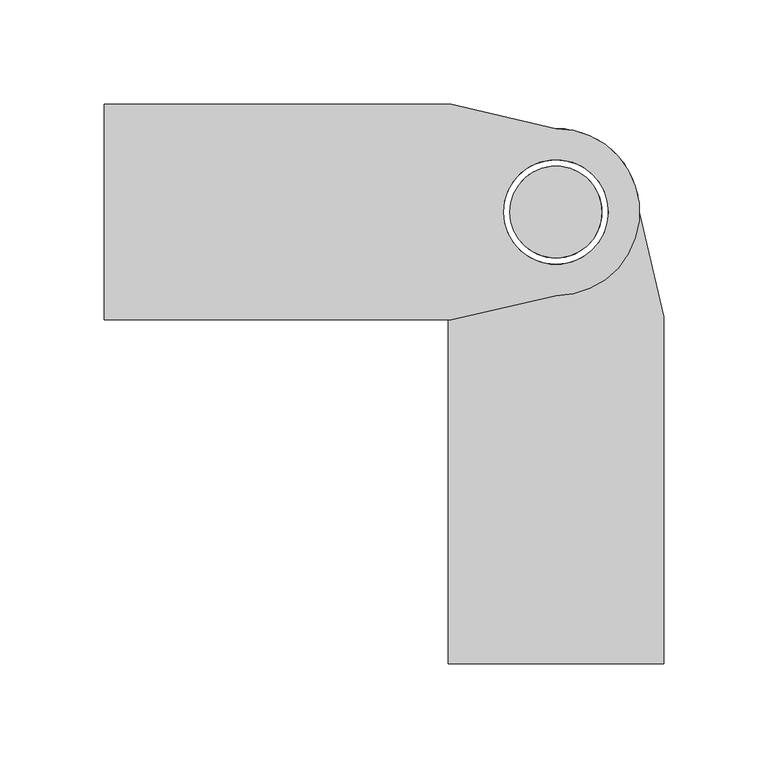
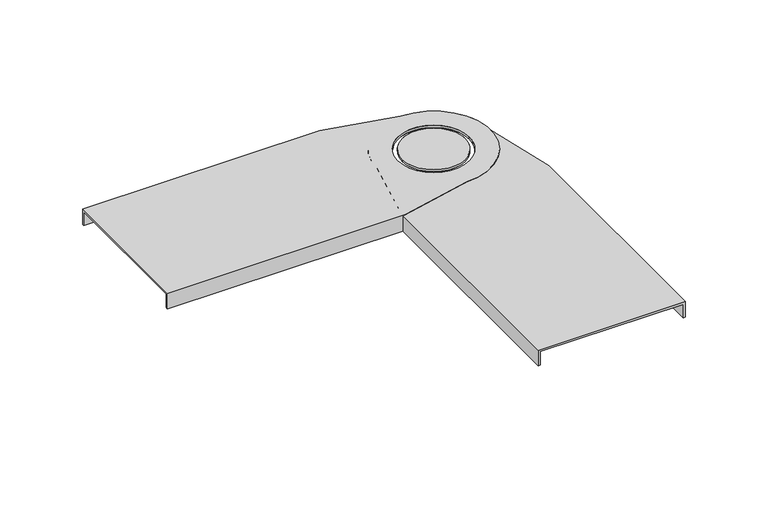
"""IFC4 building model written with IfcOpenShell, lengths in millimetres: cable carrier fitting geometry, BAKS_LDLS_BEND_Articulated connector_LGSU : LGSUP_H100."""

from ifc_helpers import new_model, si_unit, frame, origin, place, context, project, spatial, polyline, circle_curve, source, transform, mapped, element, save
from ifc_brep_helpers import plane_surface, cylinder_surface, revolved_surface, advanced_brep


def cable_carrier_fitting_ac158406(model_context):
    return source(origin(), model_context, "Body", "AdvancedBrep", [
        advanced_brep(
        [(-216.0, -51.5, 1.5), (-50.0, -51.5, 1.5), (0.0, -40.0, 1.5), (0.0, 40.0, 1.5), (-50.0, 51.5, 1.5), (-216.0, 51.5, 1.5), (25.0, 0.0, 1.5), (-25.0, 0.0, 1.5), (-50.0, 51.5, 0.0), (0.0, 40.0, 0.0), (0.0, -40.0, 0.0), (-50.0, -51.5, 0.0), (-50.0, -50.0, 0.0), (-216.0, -50.0, 0.0), (-216.0, 50.0, 0.0), (-50.0, 50.0, 0.0), (-25.0, 0.0, 0.0), (25.0, 0.0, 0.0), (-216.0, -51.5, -10.0), (-50.0, -51.5, -10.0), (-50.0, 51.5, -10.0), (-216.0, 51.5, -10.0), (-216.0, 50.0, -10.0), (-216.0, -50.0, -10.0), (-50.0, 50.0, -10.0), (-50.0, -50.0, -10.0)],
        [
            (0, 1),
            (1, 2),
            (2, 3, circle_curve(frame((0.0, 0.0, 1.5), z_axis=(0.0, 0.0, 1.0), x_axis=(-1.0, 0.0, 0.0)), 40.0)),
            (3, 4),
            (4, 5),
            (5, 0),
            (6, 7, circle_curve(frame((0.0, 0.0, 1.5), z_axis=(0.0, 0.0, -1.0), x_axis=(-1.0, 0.0, 0.0)), 25.0)),
            (7, 6, circle_curve(frame((0.0, 0.0, 1.5), z_axis=(0.0, 0.0, -1.0), x_axis=(-1.0, 0.0, 0.0)), 25.0)),
            (8, 9),
            (9, 10, circle_curve(frame((0.0, 0.0, 0.0), z_axis=(0.0, 0.0, -1.0), x_axis=(-1.0, 0.0, 0.0)), 40.0)),
            (10, 11),
            (11, 12),
            (12, 13),
            (13, 14),
            (14, 15),
            (15, 8),
            (16, 17, circle_curve(frame((0.0, 0.0, 0.0), z_axis=(0.0, 0.0, 1.0), x_axis=(-1.0, 0.0, 0.0)), 25.0)),
            (17, 16, circle_curve(frame((0.0, 0.0, 0.0), z_axis=(0.0, 0.0, 1.0), x_axis=(-1.0, 0.0, 0.0)), 25.0)),
            (0, 18),
            (18, 19),
            (19, 11),
            (11, 1),
            (4, 8),
            (8, 20),
            (20, 21),
            (21, 5),
            (21, 22),
            (22, 14),
            (13, 23),
            (23, 18),
            (6, 17),
            (16, 7),
            (10, 2),
            (9, 3),
            (20, 24),
            (24, 22),
            (24, 15),
            (23, 25),
            (25, 19),
            (25, 12),
        ],
        [
            plane_surface(frame((-50.0, -51.5, 1.5), z_axis=(0.0, 0.0, 1.0), x_axis=(1.0, 0.0, 0.0))),
            plane_surface(frame((-50.0, -51.5, 0.0), z_axis=(0.0, 0.0, -1.0), x_axis=(-1.0, 0.0, 0.0))),
            plane_surface(frame((-216.0, -51.5, 1.5), z_axis=(0.0, -1.0, 0.0), x_axis=(0.0, 0.0, -1.0))),
            plane_surface(frame((-50.0, 51.5, 1.5), z_axis=(0.0, 1.0, 0.0), x_axis=(0.0, 0.0, -1.0))),
            plane_surface(frame((-216.0, 51.5, 1.5), z_axis=(-1.0, 0.0, 0.0), x_axis=(0.0, 0.0, -1.0))),
            revolved_surface(polyline([(-25.0, 0.0, 1.5), (-25.0, 0.0, 0.0)]), (0.0, 0.0, 0.0), (0.0, 0.0, 1.0)),
            plane_surface(frame((-50.0, -51.5, 1.5), z_axis=(0.22414769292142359, -0.9745551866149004, 0.0), x_axis=(0.0, 0.0, -1.0))),
            cylinder_surface(frame((0.0, 0.0, 0.0), z_axis=(0.0, 0.0, 1.0), x_axis=(-1.0, 0.0, 0.0)), 40.0),
            plane_surface(frame((0.0, 40.0, 1.5), z_axis=(0.2241476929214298, 0.9745551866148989, 0.0), x_axis=(0.0, 0.0, -1.0))),
            plane_surface(frame((-50.0, 50.0, -10.0), z_axis=(0.0, 0.0, -1.0), x_axis=(-1.0, 0.0, 0.0))),
            plane_surface(frame((-216.0, 50.0, 0.0), z_axis=(0.0, -1.0, 0.0), x_axis=(0.0, 0.0, -1.0))),
            plane_surface(frame((-50.0, 50.0, 0.0), z_axis=(1.0, 0.0, 0.0), x_axis=(0.0, 0.0, -1.0))),
            plane_surface(frame((-50.0, -51.5, -10.0), z_axis=(0.0, 0.0, -1.0), x_axis=(-1.0, 0.0, 0.0))),
            plane_surface(frame((-50.0, -51.5, 0.0), z_axis=(1.0, 0.0, 0.0), x_axis=(0.0, 0.0, -1.0))),
            plane_surface(frame((-50.0, -50.0, 0.0), z_axis=(0.0, 1.0, 0.0), x_axis=(0.0, 0.0, -1.0))),
        ],
        [
            (0, [[1, 2, 3, 4, 5, 6], [7, 8]]),
            (1, [[9, 10, 11, 12, 13, 14, 15, 16], [17, 18]]),
            (2, [[-1, 19, 20, 21, 22]]),
            (3, [[-5, 23, 24, 25, 26]]),
            (4, [[-19, -6, -26, 27, 28, -14, 29, 30]]),
            (5, [[31, -17, 32, -7]]),
            (5, [[-31, -8, -32, -18]]),
            (6, [[-2, -22, -11, 33]]),
            (7, [[-3, -33, -10, 34]]),
            (8, [[-4, -34, -9, -23]]),
            (9, [[-27, -25, 35, 36]]),
            (10, [[-36, 37, -15, -28]]),
            (11, [[-35, -24, -16, -37]]),
            (12, [[-30, 38, 39, -20]]),
            (13, [[-39, 40, -12, -21]]),
            (14, [[-38, -29, -13, -40]]),
        ],
    ),
        advanced_brep(
        [(22.0, 0.0, 1.5), (-22.0, 0.0, 1.5), (-22.0, 0.0, 0.0), (22.0, 0.0, 0.0)],
        [
            (0, 1, circle_curve(frame((0.0, 0.0, 1.5), z_axis=(0.0, 0.0, 1.0), x_axis=(-1.0, 0.0, 0.0)), 22.0)),
            (1, 0, circle_curve(frame((0.0, 0.0, 1.5), z_axis=(0.0, 0.0, 1.0), x_axis=(-1.0, 0.0, 0.0)), 22.0)),
            (2, 3, circle_curve(frame((0.0, 0.0, 0.0), z_axis=(0.0, 0.0, -1.0), x_axis=(-1.0, 0.0, 0.0)), 22.0)),
            (3, 2, circle_curve(frame((0.0, 0.0, 0.0), z_axis=(0.0, 0.0, -1.0), x_axis=(-1.0, 0.0, 0.0)), 22.0)),
            (0, 3),
            (2, 1),
        ],
        [
            plane_surface(frame((-50.0, -51.5, 1.5), z_axis=(0.0, 0.0, 1.0), x_axis=(1.0, 0.0, 0.0))),
            plane_surface(frame((-50.0, -51.5, 0.0), z_axis=(0.0, 0.0, -1.0), x_axis=(-1.0, 0.0, 0.0))),
            cylinder_surface(frame((0.0, 0.0, 0.0), z_axis=(0.0, 0.0, -1.0), x_axis=(-1.0, 0.0, 0.0)), 22.0),
        ],
        [
            (0, [[1, 2]]),
            (1, [[3, 4]]),
            (2, [[5, -3, 6, -1]]),
            (2, [[-5, -2, -6, -4]]),
        ],
    ),
        advanced_brep(
        [(-51.5, -216.0, 1.5), (51.5, -216.0, 1.5), (51.5, -50.0, 1.5), (40.0, 0.0, 1.5), (-40.0, 0.0, 1.5), (-51.5, -50.0, 1.5), (0.0, 25.0, 1.5), (0.0, -25.0, 1.5), (51.5, -50.0, 0.0), (50.0, -50.0, 0.0), (50.0, -216.0, 0.0), (-50.0, -216.0, 0.0), (-50.0, -50.0, 0.0), (-51.5, -50.0, 0.0), (-40.0, 0.0, 0.0), (40.0, 0.0, 0.0), (0.0, -25.0, 0.0), (0.0, 25.0, 0.0), (-51.5, -50.0, -10.0), (-51.5, -216.0, -10.0), (51.5, -216.0, -10.0), (51.5, -50.0, -10.0), (-50.0, -216.0, -10.0), (50.0, -216.0, -10.0), (50.0, -50.0, -10.0), (-50.0, -50.0, -10.0)],
        [
            (0, 1),
            (1, 2),
            (2, 3),
            (3, 4, circle_curve(frame((0.0, 0.0, 1.5), z_axis=(0.0, 0.0, 1.0), x_axis=(0.0, -1.0, 0.0)), 40.0)),
            (4, 5),
            (5, 0),
            (6, 7, circle_curve(frame((0.0, 0.0, 1.5), z_axis=(0.0, 0.0, -1.0), x_axis=(0.0, -1.0, 0.0)), 25.0)),
            (7, 6, circle_curve(frame((0.0, 0.0, 1.5), z_axis=(0.0, 0.0, -1.0), x_axis=(0.0, -1.0, 0.0)), 25.0)),
            (8, 9),
            (9, 10),
            (10, 11),
            (11, 12),
            (12, 13),
            (13, 14),
            (14, 15, circle_curve(frame((0.0, 0.0, 0.0), z_axis=(0.0, 0.0, -1.0), x_axis=(0.0, -1.0, 0.0)), 40.0)),
            (15, 8),
            (16, 17, circle_curve(frame((0.0, 0.0, 0.0), z_axis=(0.0, 0.0, 1.0), x_axis=(0.0, -1.0, 0.0)), 25.0)),
            (17, 16, circle_curve(frame((0.0, 0.0, 0.0), z_axis=(0.0, 0.0, 1.0), x_axis=(0.0, -1.0, 0.0)), 25.0)),
            (5, 13),
            (13, 18),
            (18, 19),
            (19, 0),
            (1, 20),
            (20, 21),
            (21, 8),
            (8, 2),
            (19, 22),
            (22, 11),
            (10, 23),
            (23, 20),
            (7, 16),
            (17, 6),
            (4, 14),
            (3, 15),
            (23, 24),
            (24, 21),
            (9, 24),
            (18, 25),
            (25, 22),
            (12, 25),
        ],
        [
            plane_surface(frame((-51.5, -50.0, 1.5), z_axis=(0.0, 0.0, 1.0), x_axis=(0.0, 1.0, 0.0))),
            plane_surface(frame((-51.5, -50.0, 0.0), z_axis=(0.0, 0.0, -1.0), x_axis=(0.0, -1.0, 0.0))),
            plane_surface(frame((-51.5, -216.0, 1.5), z_axis=(-1.0, 0.0, 0.0), x_axis=(0.0, 0.0, -1.0))),
            plane_surface(frame((51.5, -50.0, 1.5), z_axis=(1.0, 0.0, 0.0), x_axis=(0.0, 0.0, -1.0))),
            plane_surface(frame((51.5, -216.0, 1.5), z_axis=(0.0, -1.0, 0.0), x_axis=(0.0, 0.0, -1.0))),
            revolved_surface(polyline([(0.0, -25.0, 1.5), (0.0, -25.0, 0.0)]), (0.0, 0.0, 0.0), (0.0, 0.0, 1.0)),
            plane_surface(frame((-51.5, -50.0, 1.5), z_axis=(-0.9745551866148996, 0.2241476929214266, 0.0), x_axis=(0.0, 0.0, -1.0))),
            cylinder_surface(frame((0.0, 0.0, 0.0), z_axis=(0.0, 0.0, 1.0), x_axis=(0.0, -1.0, 0.0)), 40.0),
            plane_surface(frame((40.0, 0.0, 1.5), z_axis=(0.9745551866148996, 0.22414769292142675, 0.0), x_axis=(0.0, 0.0, -1.0))),
            plane_surface(frame((50.0, -50.0, -10.0), z_axis=(0.0, 0.0, -1.0), x_axis=(0.0, -1.0, 0.0))),
            plane_surface(frame((50.0, -216.0, 0.0), z_axis=(-1.0, 0.0, 0.0), x_axis=(0.0, 0.0, -1.0))),
            plane_surface(frame((50.0, -50.0, 0.0), z_axis=(0.0, 1.0, 0.0), x_axis=(0.0, 0.0, -1.0))),
            plane_surface(frame((-51.5, -50.0, -10.0), z_axis=(0.0, 0.0, -1.0), x_axis=(0.0, -1.0, 0.0))),
            plane_surface(frame((-51.5, -50.0, 0.0), z_axis=(0.0, 1.0, 0.0), x_axis=(0.0, 0.0, -1.0))),
            plane_surface(frame((-50.0, -50.0, 0.0), z_axis=(1.0, 0.0, 0.0), x_axis=(0.0, 0.0, -1.0))),
        ],
        [
            (0, [[1, 2, 3, 4, 5, 6], [7, 8]]),
            (1, [[9, 10, 11, 12, 13, 14, 15, 16], [17, 18]]),
            (2, [[19, 20, 21, 22, -6]]),
            (3, [[23, 24, 25, 26, -2]]),
            (4, [[27, 28, -11, 29, 30, -23, -1, -22]]),
            (5, [[-8, 31, -18, 32]]),
            (5, [[-17, -31, -7, -32]]),
            (6, [[33, -14, -19, -5]]),
            (7, [[34, -15, -33, -4]]),
            (8, [[-26, -16, -34, -3]]),
            (9, [[35, 36, -24, -30]]),
            (10, [[-29, -10, 37, -35]]),
            (11, [[-37, -9, -25, -36]]),
            (12, [[-21, 38, 39, -27]]),
            (13, [[-20, -13, 40, -38]]),
            (14, [[-40, -12, -28, -39]]),
        ],
    ),
        advanced_brep(
        [(0.0, 22.0, 1.5), (0.0, -22.0, 1.5), (0.0, -22.0, 0.0), (0.0, 22.0, 0.0)],
        [
            (0, 1, circle_curve(frame((0.0, 0.0, 1.5), z_axis=(0.0, 0.0, 1.0), x_axis=(0.0, -1.0, 0.0)), 22.0)),
            (1, 0, circle_curve(frame((0.0, 0.0, 1.5), z_axis=(0.0, 0.0, 1.0), x_axis=(0.0, -1.0, 0.0)), 22.0)),
            (2, 3, circle_curve(frame((0.0, 0.0, 0.0), z_axis=(0.0, 0.0, -1.0), x_axis=(0.0, -1.0, 0.0)), 22.0)),
            (3, 2, circle_curve(frame((0.0, 0.0, 0.0), z_axis=(0.0, 0.0, -1.0), x_axis=(0.0, -1.0, 0.0)), 22.0)),
            (1, 2),
            (3, 0),
        ],
        [
            plane_surface(frame((-51.5, -50.0, 1.5), z_axis=(0.0, 0.0, 1.0), x_axis=(0.0, 1.0, 0.0))),
            plane_surface(frame((-51.5, -50.0, 0.0), z_axis=(0.0, 0.0, -1.0), x_axis=(0.0, -1.0, 0.0))),
            cylinder_surface(frame((0.0, 0.0, 0.0), z_axis=(0.0, 0.0, -1.0), x_axis=(0.0, -1.0, 0.0)), 22.0),
        ],
        [
            (0, [[1, 2]]),
            (1, [[3, 4]]),
            (2, [[-2, 5, -4, 6]]),
            (2, [[-3, -5, -1, -6]]),
        ],
    ),
    ])


if __name__ == "__main__":
    model = new_model("IFC4")
    model_context = context("Model", 3, world=origin())
    ifc_project = project(units=[si_unit("LENGTHUNIT", "METRE", prefix="MILLI")], contexts=[model_context])
    site = spatial("IfcSite", under=ifc_project)
    building = spatial("IfcBuilding", under=site)
    placement = place(None, origin())
    cable_carrier_fitting_shape = cable_carrier_fitting_ac158406(model_context)
    element("IfcCableCarrierFitting", 1, ObjectType="BAKS_LDLS_BEND_Articulated connector_LGSU : LGSUP_H100", at=placement, inside=building, context=model_context, shape_type="MappedRepresentation", body=[
        mapped(cable_carrier_fitting_shape, transform((0.0, 0.0, 0.0), x_axis=(1.0, 0.0, 0.0), y_axis=(0.0, 1.0, 0.0), z_axis=(0.0, 0.0, 1.0))),
    ])
    save(model, "model.ifc")
